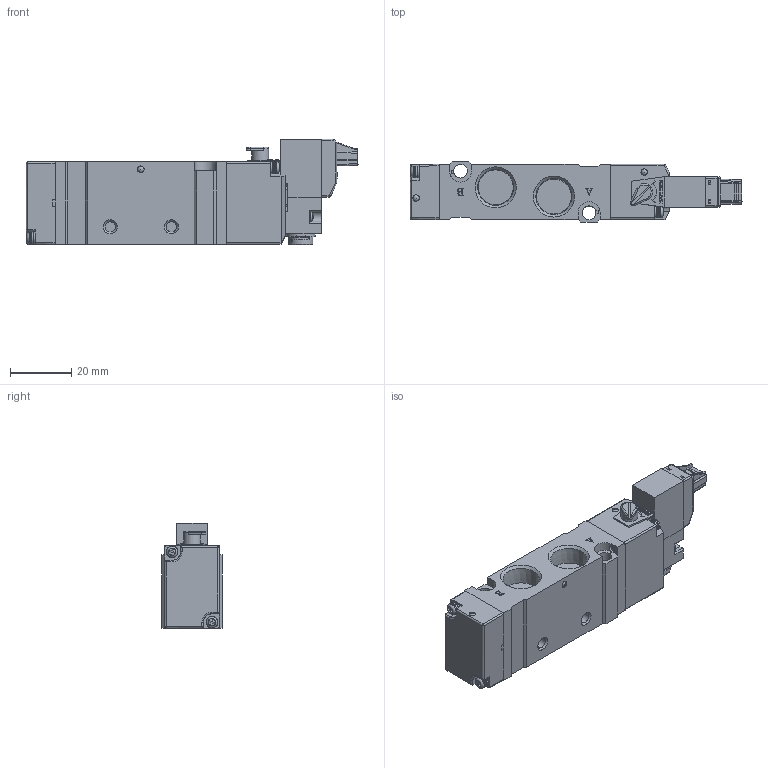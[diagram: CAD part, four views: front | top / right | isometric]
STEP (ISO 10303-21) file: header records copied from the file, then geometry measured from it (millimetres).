
FILE_DESCRIPTION((''),'2;1');
FILE_NAME('W:\技術グループ\Winovation\Winovation Projects\ADEX Valve in-line\ADEX Plus 3D CAD\P2A20RS\P2A20RS25-1P-02_配布用元データ_Shrinkwrap_1.stp','2014-09-24T17:12:52',('HM161442'),(''),'Autodesk Inventor 2013','Autodesk Inventor 2013','');
FILE_SCHEMA(('AUTOMOTIVE_DESIGN { 1 0 10303 214 1 1 1 1 }'));
Length unit declared in the file: millimetre
Products named in the file (1): P2A20RS25-1P-02_配布用元データ_Shrinkwrap_1
Bounding box: 108.45 x 19.8 x 34.6 mm (x, y, z)
Volume: 40565.5 mm3; surface area: 14515.8 mm2
Topology: 1 solids, 1 shells, 1072 faces, 2780 edges, 1754 vertices
Faces by surface type: plane 652, cylinder 200, bspline 95, cone 53, torus 37, sphere 35
Full cylindrical faces by diameter (mm): 1.3 x3, 2 x4, 2.1 x3, 2.15 x2, 2.2 x1, 2.7 x1, 2.8 x1, 3.4 x2, 3.5 x4, 3.8 x4, 4.4 x1, 4.5 x3, 5.5 x1, 8 x1, 8.1 x1
Entity records: 37093 total; most frequent: CARTESIAN_POINT 11039, ORIENTED_EDGE 5250, DIRECTION 4886, EDGE_CURVE 2625, VERTEX_POINT 1697, VECTOR 1654, LINE 1654, AXIS2_PLACEMENT_3D 1616
